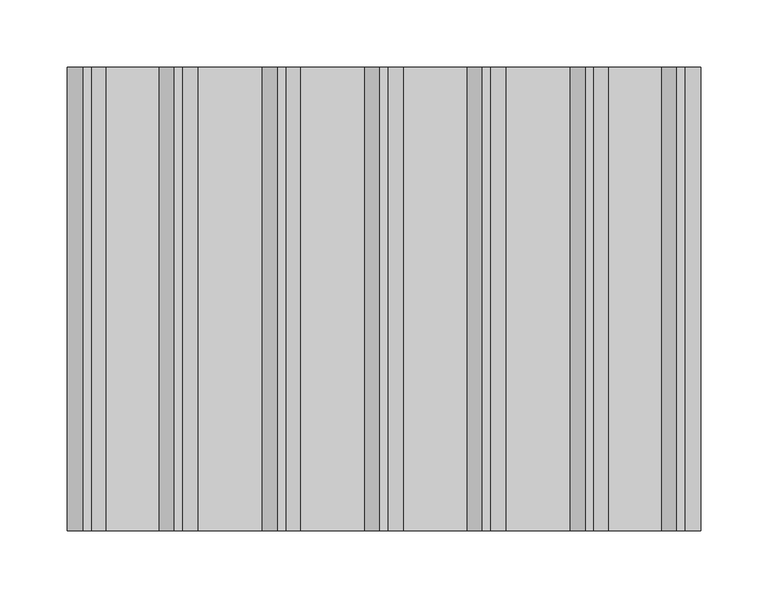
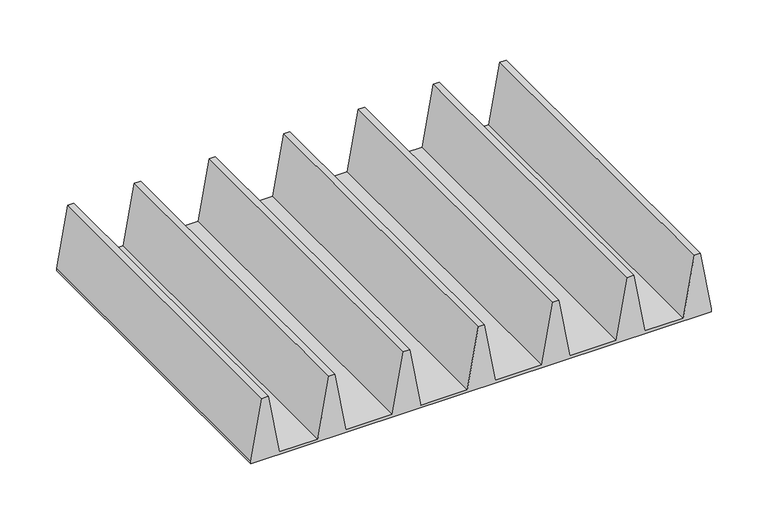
"""IFC4 building model written with IfcOpenShell, lengths in millimetres: furniture geometry."""

import ifcopenshell
import ifcopenshell.guid

model = None  # the IFC model being written
_history = None  # IfcOwnerHistory: only IFC2X3 demands one
_inside = {}  # id of a spatial element -> (the spatial element, [elements in it])
_under = {}  # id of a project, library or spatial element -> (it, [spatial elements below it])
_declared = {}  # id of a project -> (the project, [libraries it declares])
_typed = {}  # id of a type object -> (the type object, [elements of that type])
_made_of = {}  # id of a material, layer set ... -> (it, [elements and type objects made of it])


def new_model(schema):
    """Start an empty IFC model of exactly this schema.

    Asked for "IFC4X3", IfcOpenShell would pick the latest addendum, in which some entities
    have other attributes; the version numbers below select the first issue.
    IFC2X3 requires an IfcOwnerHistory on every rooted entity: one is made here for all.
    """
    global model, _history
    if schema == "IFC4X3":
        model = ifcopenshell.file(schema_version=(4, 3, 0, 0))
    else:
        model = ifcopenshell.file(schema=schema)
    _inside.clear()
    _under.clear()
    _declared.clear()
    _typed.clear()
    _made_of.clear()
    _history = None
    if model.schema == "IFC2X3":
        org = make("IfcOrganization", Name="unknown")
        user = make(
            "IfcPersonAndOrganization",
            ThePerson=make("IfcPerson", FamilyName="unknown"),
            TheOrganization=org,
        )
        app = make(
            "IfcApplication",
            ApplicationDeveloper=org,
            Version="unknown",
            ApplicationFullName="unknown",
            ApplicationIdentifier="unknown",
        )
        _history = make(
            "IfcOwnerHistory",
            OwningUser=user,
            OwningApplication=app,
            ChangeAction="ADDED",
            CreationDate=0,
        )
    return model


def make(cls, **values):
    """One entity of the class cls with the attributes given. An attribute that is None is left unset."""
    return model.create_entity(
        cls, **{name: value for name, value in values.items() if value is not None}
    )


def rooted(cls, **values):
    """An entity with a GlobalId (a new one), such as an element, a storey or a relation."""
    return make(cls, GlobalId=ifcopenshell.guid.new(), OwnerHistory=_history, **values)


def si_unit(unit_type, name, prefix=None):
    """IfcSIUnit, for example si_unit("LENGTHUNIT", "METRE", prefix="MILLI")."""
    return make("IfcSIUnit", UnitType=unit_type, Prefix=prefix, Name=name)


def assignment(units):
    """IfcUnitAssignment: the units of a project."""
    return None if units is None else make("IfcUnitAssignment", Units=units)


def point(xyz):
    """IfcCartesianPoint."""
    return None if xyz is None else make("IfcCartesianPoint", Coordinates=xyz)


def direction(xyz):
    """IfcDirection."""
    return None if xyz is None else make("IfcDirection", DirectionRatios=xyz)


def frame(location, z_axis=None, x_axis=None):
    """IfcAxis2Placement3D, a coordinate frame: its origin and axes. An axis left out is left unset."""
    return make(
        "IfcAxis2Placement3D",
        Location=point(location),
        Axis=direction(z_axis),
        RefDirection=direction(x_axis),
    )


def origin():
    """The frame at (0, 0, 0) with its axes left unset."""
    return frame((0.0, 0.0, 0.0))


def place(relative_to, where):
    """IfcLocalPlacement: puts the frame where relative to a parent placement (None: the world)."""
    return make(
        "IfcLocalPlacement", PlacementRelTo=relative_to, RelativePlacement=where
    )


def context(
    kind, dimensions, precision=None, world=None, true_north=None, identifier=None
):
    """IfcGeometricRepresentationContext, for example the 3D "Model" context."""
    return make(
        "IfcGeometricRepresentationContext",
        ContextIdentifier=identifier,
        ContextType=kind,
        CoordinateSpaceDimension=dimensions,
        Precision=precision,
        WorldCoordinateSystem=world,
        TrueNorth=true_north,
    )


def project(units=None, contexts=None):
    """IfcProject with its units and contexts."""
    return rooted(
        "IfcProject",
        Name="project",
        RepresentationContexts=contexts,
        UnitsInContext=assignment(units),
    )


def spatial(cls, under=None, at=None, **own):
    """A site, building, storey or space (cls), placed at a placement, below another one or the project."""
    s = rooted(cls, ObjectPlacement=at, **own)
    if under is not None:
        _under.setdefault(under.id(), (under, []))[1].append(s)
    return s


def polyline(points):
    """IfcPolyline through the points."""
    return make("IfcPolyline", Points=[point(p) for p in points])


def outline(outer, holes=None, kind="AREA"):
    """IfcArbitraryClosedProfileDef: a profile drawn as a closed curve; with holes, ...WithVoids."""
    if holes is None:
        return make("IfcArbitraryClosedProfileDef", ProfileType=kind, OuterCurve=outer)
    return make(
        "IfcArbitraryProfileDefWithVoids",
        ProfileType=kind,
        OuterCurve=outer,
        InnerCurves=holes,
    )


def extrude(swept, where, along, depth):
    """IfcExtrudedAreaSolid: the profile swept, set in the frame where, extruded along a direction by depth."""
    return make(
        "IfcExtrudedAreaSolid",
        SweptArea=swept,
        Position=where,
        ExtrudedDirection=direction(along),
        Depth=depth,
    )


def shape(context_of_items, identifier, shape_type, items):
    """IfcShapeRepresentation: the items that make up one representation, for example the "Body"."""
    return make(
        "IfcShapeRepresentation",
        ContextOfItems=context_of_items,
        RepresentationIdentifier=identifier,
        RepresentationType=shape_type,
        Items=items,
    )


def source(mapping_origin, context_of_items, identifier, shape_type, items):
    """IfcRepresentationMap: a shape defined once, which mapped items show again and again."""
    return make(
        "IfcRepresentationMap",
        MappingOrigin=mapping_origin,
        MappedRepresentation=shape(context_of_items, identifier, shape_type, items),
    )


def transform(
    local_origin,
    x_axis=None,
    y_axis=None,
    z_axis=None,
    scale=None,
    scale2=None,
    scale3=None,
    uniform=True,
):
    """IfcCartesianTransformationOperator3D, or its non-uniform kind. x_axis, y_axis, z_axis: its Axis1, 2, 3."""
    if uniform:
        return make(
            "IfcCartesianTransformationOperator3D",
            Axis1=direction(x_axis),
            Axis2=direction(y_axis),
            LocalOrigin=point(local_origin),
            Scale=scale,
            Axis3=direction(z_axis),
        )
    return make(
        "IfcCartesianTransformationOperator3DnonUniform",
        Axis1=direction(x_axis),
        Axis2=direction(y_axis),
        LocalOrigin=point(local_origin),
        Scale=scale,
        Axis3=direction(z_axis),
        Scale2=scale2,
        Scale3=scale3,
    )


def mapped(mapping_source, mapping_target):
    """IfcMappedItem: shows the shape of a source again, moved by a transform."""
    return make(
        "IfcMappedItem", MappingSource=mapping_source, MappingTarget=mapping_target
    )


def made_of(thing, what):
    """Note that an element or type object is made of a material, layer set ...; save() writes the relation."""
    if what is not None:
        _made_of.setdefault(what.id(), (what, []))[1].append(thing)
    return thing


def element(
    cls,
    number,
    at=None,
    inside=None,
    cuts=None,
    type_object=None,
    material=None,
    context=None,
    identifier="Body",
    shape_type=None,
    held_by="IfcProductDefinitionShape",
    body=None,
    shapes=None,
    **own,
):
    """One element of the class cls, such as IfcWall. Its Tag is "e" and its number.

    at: its placement. inside: the storey or other place that contains it. cuts: it is an
    opening in that element (IfcRelVoidsElement). A single representation is given by context,
    identifier, shape_type and body (its items); several are given by shapes. held_by: the class
    of the entity that holds the representations. save() writes the other relations.
    """
    e = rooted(cls, Tag="e%d" % number, ObjectPlacement=at, **own)
    if body is not None:
        shapes = [shape(context, identifier, shape_type, body)]
    if shapes is not None:
        e.Representation = make(held_by, Representations=shapes)
    if inside is not None:
        _inside.setdefault(inside.id(), (inside, []))[1].append(e)
    if cuts is not None:
        rooted(
            "IfcRelVoidsElement", RelatingBuildingElement=cuts, RelatedOpeningElement=e
        )
    if type_object is not None:
        _typed.setdefault(type_object.id(), (type_object, []))[1].append(e)
    return made_of(e, material)


def aggregate(whole, parts):
    """IfcRelAggregates: a whole, such as a stair, and the parts it consists of."""
    return rooted("IfcRelAggregates", RelatingObject=whole, RelatedObjects=parts)


def save(model, path):
    """Write the relations noted so far, then the file.

    IfcRelAggregates (storeys below a building ...), IfcRelContainedInSpatialStructure (elements
    in a storey), IfcRelDefinesByType, IfcRelAssociatesMaterial and IfcRelDeclares: one each for
    every whole, place, type object, material and project.
    """
    for whole, parts in _under.values():
        aggregate(whole, parts)
    for where, things in _inside.values():
        rooted(
            "IfcRelContainedInSpatialStructure",
            RelatedElements=things,
            RelatingStructure=where,
        )
    for kind, things in _typed.values():
        rooted("IfcRelDefinesByType", RelatedObjects=things, RelatingType=kind)
    for what, things in _made_of.values():
        rooted("IfcRelAssociatesMaterial", RelatedObjects=things, RelatingMaterial=what)
    for by, libraries in _declared.values():
        rooted("IfcRelDeclares", RelatingContext=by, RelatedDefinitions=libraries)
    model.write(path)


def furniture_27da73ad(model_context):
    return source(origin(), model_context, "Body", "SweptSolid", [
        extrude(outline(polyline([(1006.475, -234.8826517), (1006.475, 235.0173483), (1009.5011719, 235.0173483), (1073.15, 223.7943426), (1073.15, 217.4443426), (1009.5011719, 206.221337), (1009.5011719, 166.865354), (1073.15, 155.6423483), (1073.15, 149.2923483), (1009.5011719, 138.0693426), (1009.5011719, 90.665354), (1073.15, 79.4423483), (1073.15, 73.0923483), (1009.5011719, 61.8693426), (1009.5011719, 14.465354), (1073.15, 3.2423483), (1073.15, -3.1076517), (1009.5011719, -14.3306574), (1009.5011719, -61.734646), (1073.15, -72.9576517), (1073.15, -79.3076517), (1009.5011719, -90.5306574), (1009.5011719, -137.934646), (1073.15, -149.1576517), (1073.15, -155.5076517), (1009.5011719, -166.7306574), (1009.5011719, -206.0866403), (1073.15, -217.309646), (1073.15, -223.659646), (1009.5011719, -234.8826517), (1006.475, -234.8826517)])), frame((0.0, -171.831, 0.0), z_axis=(0.0, 1.0, 0.0), x_axis=(0.0, 0.0, 1.0)), (0.0, 0.0, 1.0), 343.662),
    ])


if __name__ == "__main__":
    model = new_model("IFC4")
    model_context = context("Model", 3, world=origin())
    ifc_project = project(units=[si_unit("LENGTHUNIT", "METRE", prefix="MILLI")], contexts=[model_context])
    site = spatial("IfcSite", under=ifc_project)
    building = spatial("IfcBuilding", under=site)
    placement = place(None, origin())
    furniture_shape = furniture_27da73ad(model_context)
    element("IfcFurniture", 1, ObjectType="HermanMiller_CoStruc_CO242_Subdivider Vane : 2 5/8\"Hx13 3/4\"D x 18 1/2\"W", at=placement, inside=building, context=model_context, shape_type="MappedRepresentation", body=[
        mapped(furniture_shape, transform((0.0, 0.0, 0.0), x_axis=(1.0, 0.0, 0.0), y_axis=(0.0, 1.0, 0.0), z_axis=(0.0, 0.0, 1.0))),
    ])
    save(model, "model.ifc")
